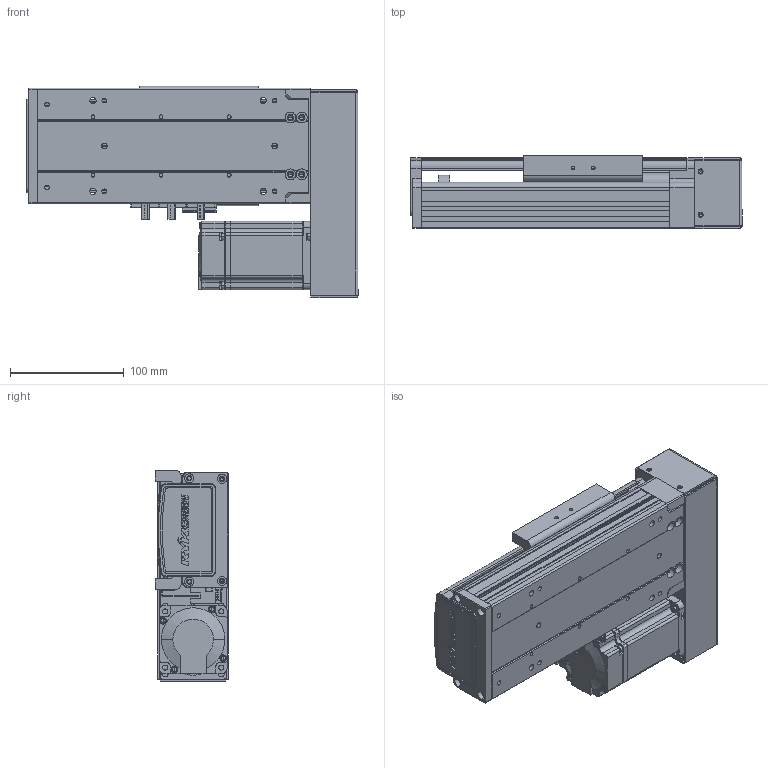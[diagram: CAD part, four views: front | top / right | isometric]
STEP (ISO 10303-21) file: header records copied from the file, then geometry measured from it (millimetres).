
FILE_DESCRIPTION (( 'STEP AP203' ), '1' );
FILE_NAME ('RY100S-L1605-50-RK-M40.STEP', '2024-03-25T01:29:36', ( '' ), ( '' ), 'SwSTEP 2.0', 'SolidWorks 2016', '' );
FILE_SCHEMA (( 'CONFIG_CONTROL_DESIGN' ));
Length unit declared in the file: millimetre
Products named in the file (15): RY100俋离覜茼え; RY100S转折电机端支撑座(15双轨); 100S铝滑块（15双轨单滑块）低组装; RY100S-300-LK转折型材上盖(15双轨)_100; RY100綴裔啣; 滅袉蝶18-24; 侂狟200W萇儂; 1; RY100S-L1605-50-RK-M40; 肮祭湍3M遵15笚酗282; RY100S-350-LK型材底座(低组15双轨)_100; RY100S左右折电机罩（15双轨）; 滅袉蝶18-10; RY100S转折电机安装板（15双轨）; 覜茼ん672
Assembly tree (16 placements, depth 3):
  RY100S-L1605-50-RK-M40
    RY100S-350-LK型材底座(低组15双轨)_100
    RY100S-300-LK转折型材上盖(15双轨)_100
    覜茼ん672  x3
    滅袉蝶18-10
    RY100俋离覜茼え
    RY100S转折电机端支撑座(15双轨)
    滅袉蝶18-24
    RY100綴裔啣
    RY100S左右折电机罩（15双轨）
    RY100S转折电机安装板（15双轨）
    肮祭湍3M遵15笚酗282
    侂狟200W萇儂
      1
    100S铝滑块（15双轨单滑块）低组装
Bounding box: 292.5 x 65 x 186.1 mm (x, y, z)
Volume: 1147365 mm3; surface area: 392455.8 mm2
Topology: 15 solids, 15 shells, 2061 faces, 5597 edges, 3612 vertices
Faces by surface type: plane 1163, cylinder 673, cone 137, bspline 88
Entity records: 65456 total; most frequent: CARTESIAN_POINT 16346, ORIENTED_EDGE 10038, DIRECTION 9590, EDGE_CURVE 5019, LINE 3340, VECTOR 3340, VERTEX_POINT 3292, AXIS2_PLACEMENT_3D 3125
